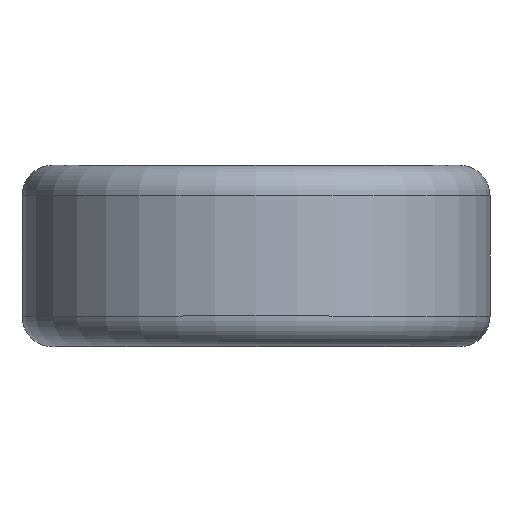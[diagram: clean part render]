
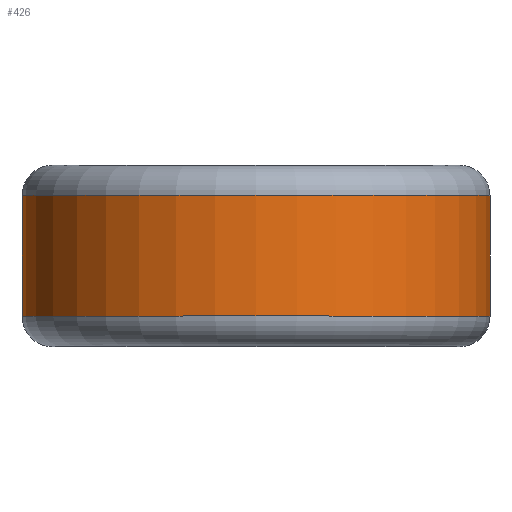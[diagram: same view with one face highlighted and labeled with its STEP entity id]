
A CAD part, top view. The second image highlights one B-rep face of the part: STEP entity #426.
In plain terms, the highlighted cylindrical face has radius 7.75 mm (diameter 15.5 mm), a full revolution.
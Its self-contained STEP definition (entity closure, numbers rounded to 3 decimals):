
#21=FACE_BOUND('',#104,.T.);
#22=FACE_BOUND('',#105,.T.);
#46=LINE('',#1444,#51);
#51=VECTOR('',#584,7.75);
#60=CYLINDRICAL_SURFACE('',#486,7.75);
#75=FACE_OUTER_BOUND('',#103,.T.);
#103=EDGE_LOOP('',(#329,#330,#331,#332,#333,#334,#335,#336));
#104=EDGE_LOOP('',(#337));
#105=EDGE_LOOP('',(#338));
#137=CIRCLE('',#487,7.75);
#138=CIRCLE('',#488,7.75);
#139=CIRCLE('',#489,7.75);
#140=CIRCLE('',#490,7.75);
#141=CIRCLE('',#491,7.75);
#142=CIRCLE('',#492,7.75);
#170=B_SPLINE_CURVE_WITH_KNOTS('',3,(#860,#861,#862,#863,#864,#865,#866,
#867,#868,#869,#870,#871,#872,#873,#874,#875,#876),.UNSPECIFIED.,.T.,.F.,
(4,1,1,1,1,1,1,1,1,1,1,1,1,1,4),(-0.321,-0.282,-0.262,
-0.243,-0.233,-0.223,-0.204,
-0.184,-0.165,-0.145,-0.126,
-0.106,-0.087,-0.067,-0.048),
 .UNSPECIFIED.);
#173=B_SPLINE_CURVE_WITH_KNOTS('',3,(#1451,#1452,#1453,#1454,#1455,#1456,
#1457,#1458,#1459,#1460,#1461,#1462,#1463,#1464,#1465,#1466),
 .UNSPECIFIED.,.T.,.F.,(4,1,1,1,1,1,1,1,1,1,1,1,1,4),(-0.321,
-0.282,-0.243,-0.238,-0.233,
-0.223,-0.204,-0.165,-0.145,
-0.126,-0.106,-0.087,-0.067,
-0.048),.UNSPECIFIED.);
#194=VERTEX_POINT('',#835);
#198=VERTEX_POINT('',#1437);
#199=VERTEX_POINT('',#1438);
#200=VERTEX_POINT('',#1440);
#201=VERTEX_POINT('',#1443);
#202=VERTEX_POINT('',#1445);
#203=VERTEX_POINT('',#1447);
#204=VERTEX_POINT('',#1450);
#245=EDGE_CURVE('',#194,#194,#170,.T.);
#248=EDGE_CURVE('',#198,#199,#137,.T.);
#249=EDGE_CURVE('',#200,#198,#138,.T.);
#250=EDGE_CURVE('',#199,#200,#139,.T.);
#251=EDGE_CURVE('',#199,#201,#46,.T.);
#252=EDGE_CURVE('',#202,#201,#140,.T.);
#253=EDGE_CURVE('',#203,#202,#141,.T.);
#254=EDGE_CURVE('',#201,#203,#142,.T.);
#255=EDGE_CURVE('',#204,#204,#173,.T.);
#329=ORIENTED_EDGE('',*,*,#248,.F.);
#330=ORIENTED_EDGE('',*,*,#249,.F.);
#331=ORIENTED_EDGE('',*,*,#250,.F.);
#332=ORIENTED_EDGE('',*,*,#251,.T.);
#333=ORIENTED_EDGE('',*,*,#252,.F.);
#334=ORIENTED_EDGE('',*,*,#253,.F.);
#335=ORIENTED_EDGE('',*,*,#254,.F.);
#336=ORIENTED_EDGE('',*,*,#251,.F.);
#337=ORIENTED_EDGE('',*,*,#255,.F.);
#338=ORIENTED_EDGE('',*,*,#245,.F.);
#426=ADVANCED_FACE('',(#75,#21,#22),#60,.T.);
#486=AXIS2_PLACEMENT_3D('',#1436,#576,#577);
#487=AXIS2_PLACEMENT_3D('',#1439,#578,#579);
#488=AXIS2_PLACEMENT_3D('',#1441,#580,#581);
#489=AXIS2_PLACEMENT_3D('',#1442,#582,#583);
#490=AXIS2_PLACEMENT_3D('',#1446,#585,#586);
#491=AXIS2_PLACEMENT_3D('',#1448,#587,#588);
#492=AXIS2_PLACEMENT_3D('',#1449,#589,#590);
#576=DIRECTION('center_axis',(0.,-1.,0.));
#577=DIRECTION('ref_axis',(1.,0.,0.));
#578=DIRECTION('center_axis',(0.,-1.,0.));
#579=DIRECTION('ref_axis',(-1.,0.,0.));
#580=DIRECTION('center_axis',(0.,-1.,0.));
#581=DIRECTION('ref_axis',(-1.,0.,0.));
#582=DIRECTION('center_axis',(0.,-1.,0.));
#583=DIRECTION('ref_axis',(-1.,0.,0.));
#584=DIRECTION('',(0.,1.,0.));
#585=DIRECTION('center_axis',(0.,1.,0.));
#586=DIRECTION('ref_axis',(-1.,0.,0.));
#587=DIRECTION('center_axis',(0.,1.,0.));
#588=DIRECTION('ref_axis',(-1.,0.,0.));
#589=DIRECTION('center_axis',(0.,1.,0.));
#590=DIRECTION('ref_axis',(-1.,0.,0.));
#835=CARTESIAN_POINT('',(-3.234,0.378,-7.043));
#860=CARTESIAN_POINT('Ctrl Pts',(-3.234,0.378,-7.043));
#861=CARTESIAN_POINT('Ctrl Pts',(-3.403,0.355,-6.965));
#862=CARTESIAN_POINT('Ctrl Pts',(-3.665,0.444,-6.831));
#863=CARTESIAN_POINT('Ctrl Pts',(-3.858,0.768,-6.722));
#864=CARTESIAN_POINT('Ctrl Pts',(-3.887,1.012,-6.705));
#865=CARTESIAN_POINT('Ctrl Pts',(-3.852,1.2,-6.725));
#866=CARTESIAN_POINT('Ctrl Pts',(-3.781,1.375,-6.766));
#867=CARTESIAN_POINT('Ctrl Pts',(-3.63,1.546,-6.849));
#868=CARTESIAN_POINT('Ctrl Pts',(-3.388,1.641,-6.972));
#869=CARTESIAN_POINT('Ctrl Pts',(-3.128,1.618,-7.092));
#870=CARTESIAN_POINT('Ctrl Pts',(-2.896,1.476,-7.19));
#871=CARTESIAN_POINT('Ctrl Pts',(-2.742,1.233,-7.249));
#872=CARTESIAN_POINT('Ctrl Pts',(-2.704,0.94,-7.263));
#873=CARTESIAN_POINT('Ctrl Pts',(-2.791,0.659,-7.23));
#874=CARTESIAN_POINT('Ctrl Pts',(-2.983,0.453,-7.154));
#875=CARTESIAN_POINT('Ctrl Pts',(-3.15,0.39,-7.082));
#876=CARTESIAN_POINT('Ctrl Pts',(-3.234,0.378,-7.043));
#1436=CARTESIAN_POINT('Origin',(0.,0.,
0.));
#1437=CARTESIAN_POINT('',(7.75,-2.,0.));
#1438=CARTESIAN_POINT('',(-7.75,-2.,0.));
#1439=CARTESIAN_POINT('Origin',(0.,-2.,0.));
#1440=CARTESIAN_POINT('',(0.,-2.,-7.75));
#1441=CARTESIAN_POINT('Origin',(0.,-2.,0.));
#1442=CARTESIAN_POINT('Origin',(0.,-2.,0.));
#1443=CARTESIAN_POINT('',(-7.75,2.,0.));
#1444=CARTESIAN_POINT('',(-7.75,0.,0.));
#1445=CARTESIAN_POINT('',(7.75,2.,0.));
#1446=CARTESIAN_POINT('Origin',(0.,2.,0.));
#1447=CARTESIAN_POINT('',(0.,2.,7.75));
#1448=CARTESIAN_POINT('Origin',(0.,2.,0.));
#1449=CARTESIAN_POINT('Origin',(0.,2.,0.));
#1450=CARTESIAN_POINT('',(3.234,-0.378,-7.043));
#1451=CARTESIAN_POINT('Ctrl Pts',(3.234,-0.378,-7.043));
#1452=CARTESIAN_POINT('Ctrl Pts',(3.403,-0.355,-6.965));
#1453=CARTESIAN_POINT('Ctrl Pts',(3.753,-0.473,-6.785));
#1454=CARTESIAN_POINT('Ctrl Pts',(3.898,-0.891,-6.697));
#1455=CARTESIAN_POINT('Ctrl Pts',(3.866,-1.129,-6.716));
#1456=CARTESIAN_POINT('Ctrl Pts',(3.844,-1.222,-6.729));
#1457=CARTESIAN_POINT('Ctrl Pts',(3.781,-1.374,-6.765));
#1458=CARTESIAN_POINT('Ctrl Pts',(3.57,-1.614,-6.882));
#1459=CARTESIAN_POINT('Ctrl Pts',(3.206,-1.666,-7.06));
#1460=CARTESIAN_POINT('Ctrl Pts',(2.896,-1.475,-7.189));
#1461=CARTESIAN_POINT('Ctrl Pts',(2.742,-1.233,-7.249));
#1462=CARTESIAN_POINT('Ctrl Pts',(2.704,-0.94,-7.263));
#1463=CARTESIAN_POINT('Ctrl Pts',(2.792,-0.659,-7.23));
#1464=CARTESIAN_POINT('Ctrl Pts',(2.983,-0.453,-7.154));
#1465=CARTESIAN_POINT('Ctrl Pts',(3.15,-0.39,-7.082));
#1466=CARTESIAN_POINT('Ctrl Pts',(3.234,-0.378,-7.043));
